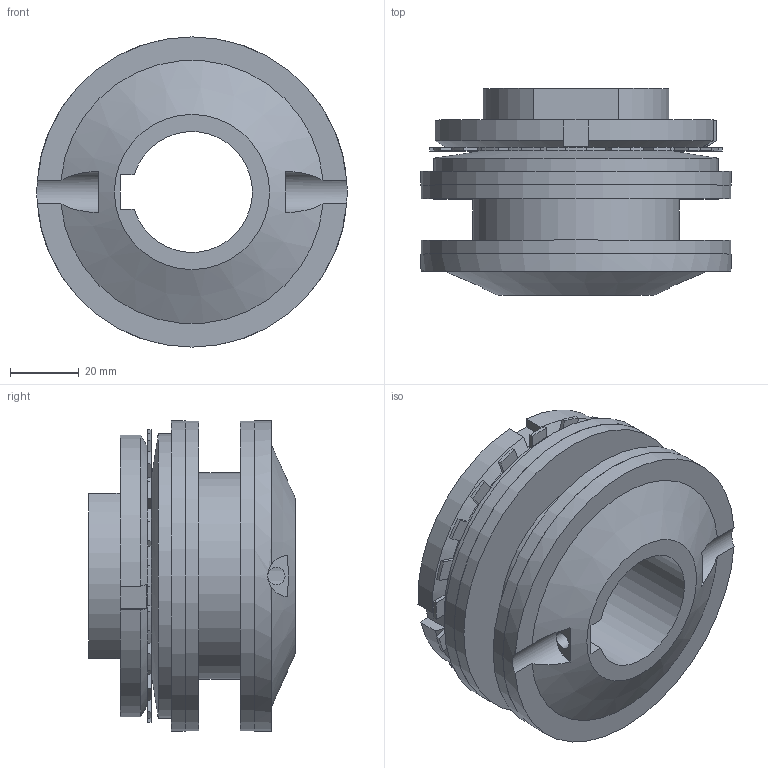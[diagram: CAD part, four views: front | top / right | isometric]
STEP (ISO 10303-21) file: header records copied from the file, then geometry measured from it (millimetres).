
FILE_DESCRIPTION( ( 'Unknown' ), '1' );
FILE_NAME( 'R:/utp/progettazione/3 D/DF/COMPLESSIVI/DF/2-90 DF GT.stp', 'Unknown', ( 'Unknown' ), ( 'Unknown' ), 'PSStep 10.1', 'Unknown', ' ' );
FILE_SCHEMA( ( 'AUTOMOTIVE_DESIGN { 1 0 10303 214 1 1 1 1 }' ) );
Length unit declared in the file: millimetre
Products named in the file (1): 1
Bounding box: 90 x 60 x 90 mm (x, y, z)
Volume: 188395.8 mm3; surface area: 57206.3 mm2
Topology: 1 solids, 2 shells, 190 faces, 492 edges, 311 vertices
Faces by surface type: plane 118, cylinder 68, cone 4
Full cylindrical faces by diameter (mm): 5.001 x1, 55 x1, 60 x2, 82.5 x1, 89.9 x2, 90 x2
Entity records: 8016 total; most frequent: CARTESIAN_POINT 1099, DIRECTION 987, ORIENTED_EDGE 936, EDGE_CURVE 468, PRESENTATION_STYLE_ASSIGNMENT 381, COLOUR_RGB 381, AXIS2_PLACEMENT_3D 352, VERTEX_POINT 300
